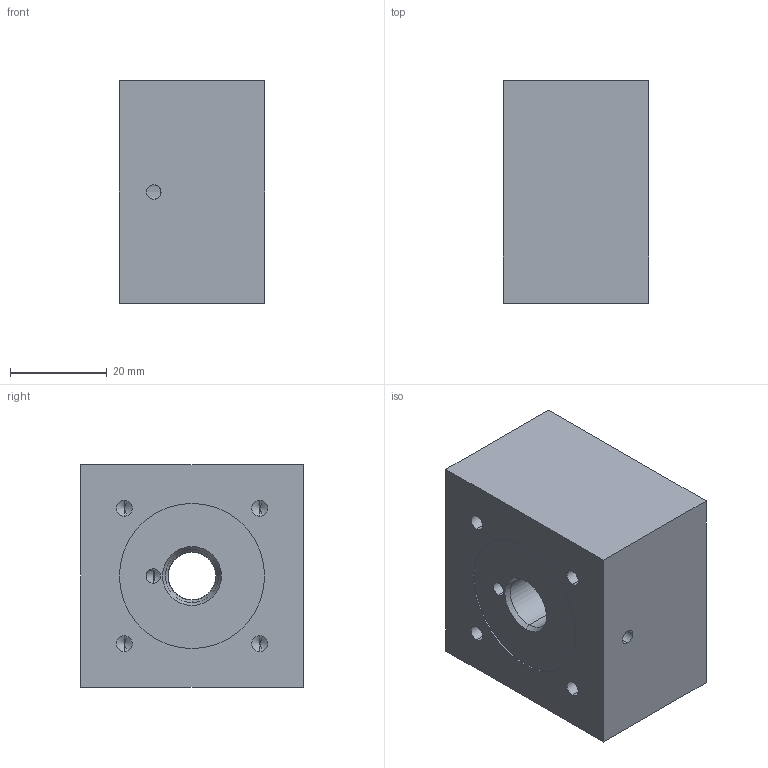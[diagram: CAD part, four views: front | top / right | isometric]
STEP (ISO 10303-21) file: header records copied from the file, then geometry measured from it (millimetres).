
FILE_DESCRIPTION (( 'STEP AP214' ), '1' );
FILE_NAME ('1-1357.4.STEP', '2017-04-26T08:01:43', ( '' ), ( '' ), 'SwSTEP 2.0', 'SolidWorks 2016', '' );
FILE_SCHEMA (( 'AUTOMOTIVE_DESIGN' ));
Length unit declared in the file: millimetre
Products named in the file (1): 1-1357.4
Bounding box: 30 x 46 x 46 mm (x, y, z)
Volume: 60040.5 mm3; surface area: 11496.4 mm2
Topology: 1 solids, 1 shells, 52 faces, 124 edges, 70 vertices
Faces by surface type: cylinder 26, cone 19, plane 7
Entity records: 1675 total; most frequent: CARTESIAN_POINT 375, DIRECTION 256, ORIENTED_EDGE 232, EDGE_CURVE 116, AXIS2_PLACEMENT_3D 101, VERTEX_POINT 70, EDGE_LOOP 64, VECTOR 54
